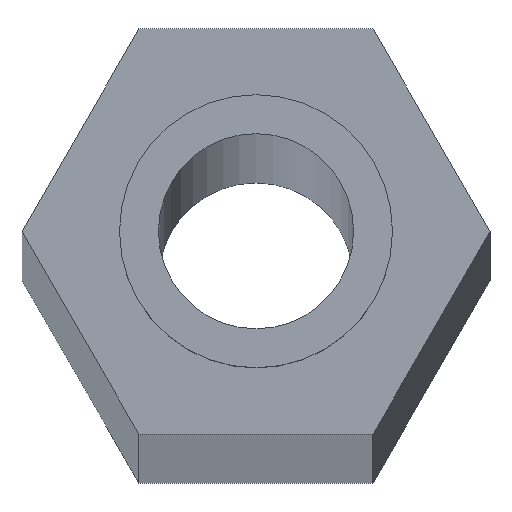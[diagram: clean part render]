
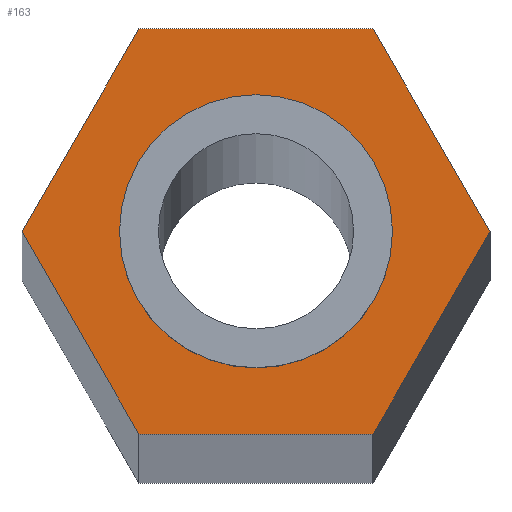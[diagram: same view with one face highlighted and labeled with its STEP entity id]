
A CAD part, top view. The second image highlights one B-rep face of the part: STEP entity #163.
In plain terms, the highlighted planar face has unit normal (0, 0, 1).
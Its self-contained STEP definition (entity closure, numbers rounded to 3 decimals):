
#24 = VERTEX_POINT('',#25);
#25 = CARTESIAN_POINT('',(10.993,0.,1320.8));
#31 = EDGE_CURVE('',#24,#32,#34,.T.);
#32 = VERTEX_POINT('',#33);
#33 = CARTESIAN_POINT('',(5.496,9.52,1320.8));
#34 = LINE('',#35,#36);
#35 = CARTESIAN_POINT('',(10.993,0.,1320.8));
#36 = VECTOR('',#37,1.);
#37 = DIRECTION('',(-0.5,0.866,0.));
#64 = VERTEX_POINT('',#65);
#65 = CARTESIAN_POINT('',(5.496,-9.52,1320.8));
#71 = EDGE_CURVE('',#64,#24,#72,.T.);
#72 = LINE('',#73,#74);
#73 = CARTESIAN_POINT('',(5.496,-9.52,1320.8));
#74 = VECTOR('',#75,1.);
#75 = DIRECTION('',(0.5,0.866,0.));
#93 = EDGE_CURVE('',#32,#94,#96,.T.);
#94 = VERTEX_POINT('',#95);
#95 = CARTESIAN_POINT('',(-5.496,9.52,1320.8));
#96 = LINE('',#97,#98);
#97 = CARTESIAN_POINT('',(5.496,9.52,1320.8));
#98 = VECTOR('',#99,1.);
#99 = DIRECTION('',(-1.,0.,0.));
#163 = ADVANCED_FACE('',(#164,#191),#202,.T.);
#164 = FACE_BOUND('',#165,.T.);
#165 = EDGE_LOOP('',(#166,#167,#168,#176,#184,#190));
#166 = ORIENTED_EDGE('',*,*,#31,.T.);
#167 = ORIENTED_EDGE('',*,*,#93,.T.);
#168 = ORIENTED_EDGE('',*,*,#169,.T.);
#169 = EDGE_CURVE('',#94,#170,#172,.T.);
#170 = VERTEX_POINT('',#171);
#171 = CARTESIAN_POINT('',(-10.993,0.,1320.8));
#172 = LINE('',#173,#174);
#173 = CARTESIAN_POINT('',(-5.496,9.52,1320.8));
#174 = VECTOR('',#175,1.);
#175 = DIRECTION('',(-0.5,-0.866,0.));
#176 = ORIENTED_EDGE('',*,*,#177,.T.);
#177 = EDGE_CURVE('',#170,#178,#180,.T.);
#178 = VERTEX_POINT('',#179);
#179 = CARTESIAN_POINT('',(-5.496,-9.52,1320.8));
#180 = LINE('',#181,#182);
#181 = CARTESIAN_POINT('',(-10.993,0.,1320.8));
#182 = VECTOR('',#183,1.);
#183 = DIRECTION('',(0.5,-0.866,0.));
#184 = ORIENTED_EDGE('',*,*,#185,.T.);
#185 = EDGE_CURVE('',#178,#64,#186,.T.);
#186 = LINE('',#187,#188);
#187 = CARTESIAN_POINT('',(-5.496,-9.52,1320.8));
#188 = VECTOR('',#189,1.);
#189 = DIRECTION('',(1.,0.,0.));
#190 = ORIENTED_EDGE('',*,*,#71,.T.);
#191 = FACE_BOUND('',#192,.T.);
#192 = EDGE_LOOP('',(#193));
#193 = ORIENTED_EDGE('',*,*,#194,.F.);
#194 = EDGE_CURVE('',#195,#195,#197,.T.);
#195 = VERTEX_POINT('',#196);
#196 = CARTESIAN_POINT('',(6.414,0.,1320.8));
#197 = CIRCLE('',#198,6.414);
#198 = AXIS2_PLACEMENT_3D('',#199,#200,#201);
#199 = CARTESIAN_POINT('',(0.,0.,1320.8));
#200 = DIRECTION('',(0.,0.,1.));
#201 = DIRECTION('',(1.,0.,0.));
#202 = PLANE('',#203);
#203 = AXIS2_PLACEMENT_3D('',#204,#205,#206);
#204 = CARTESIAN_POINT('',(0.,0.,1320.8));
#205 = DIRECTION('',(0.,0.,1.));
#206 = DIRECTION('',(1.,0.,0.));
